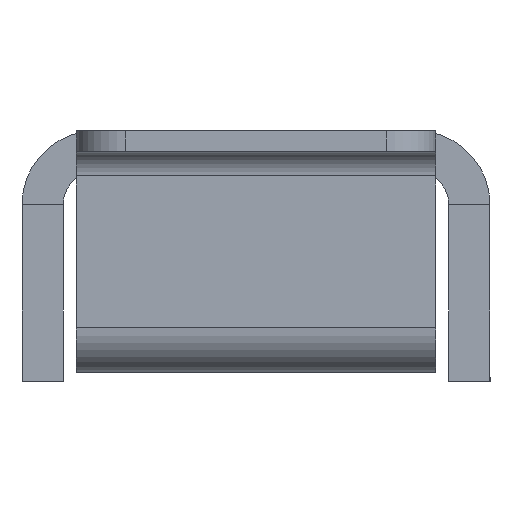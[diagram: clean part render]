
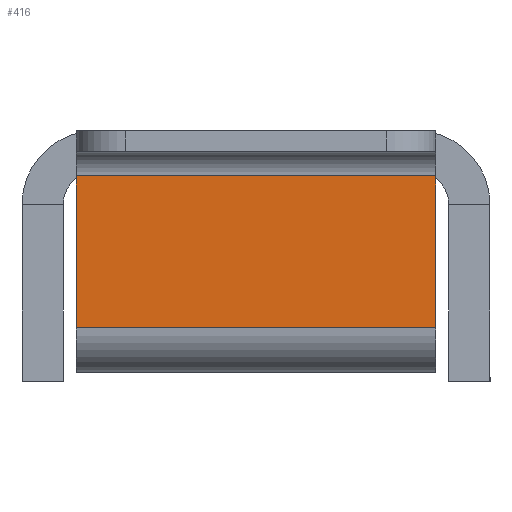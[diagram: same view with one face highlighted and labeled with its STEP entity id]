
A CAD part, left-side view. The second image highlights one B-rep face of the part: STEP entity #416.
In plain terms, the highlighted planar face has unit normal (-1, 0, 0).
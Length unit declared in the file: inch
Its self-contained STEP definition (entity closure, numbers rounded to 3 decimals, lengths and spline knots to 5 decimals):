
#9 = EDGE_CURVE ( 'NONE', #146, #602, #1647, .T. ) ;
#12 = CARTESIAN_POINT ( 'NONE',  ( -1.03438, 0.4375, 0.43 ) ) ;
#69 = VERTEX_POINT ( 'NONE', #852 ) ;
#115 = LINE ( 'NONE', #405, #2080 ) ;
#146 = VERTEX_POINT ( 'NONE', #12 ) ;
#228 = CARTESIAN_POINT ( 'NONE',  ( -1.03438, 0.4375, 0.06 ) ) ;
#253 = CARTESIAN_POINT ( 'NONE',  ( -1.03438, 0.4375, 0.49 ) ) ;
#302 = CARTESIAN_POINT ( 'NONE',  ( -1.03438, 0.4375, 0.43 ) ) ;
#405 = CARTESIAN_POINT ( 'NONE',  ( -1.03438, 0.4375, 0.06 ) ) ;
#416 = ADVANCED_FACE ( 'NONE', ( #555 ), #1248, .F. ) ;
#434 = EDGE_CURVE ( 'NONE', #69, #1970, #115, .T. ) ;
#508 = DIRECTION ( 'NONE',  ( 0., 0., 1. ) ) ;
#555 = FACE_OUTER_BOUND ( 'NONE', #1914, .T. ) ;
#585 = DIRECTION ( 'NONE',  ( 0., 0., -1. ) ) ;
#602 = VERTEX_POINT ( 'NONE', #827 ) ;
#620 = CARTESIAN_POINT ( 'NONE',  ( -1.03438, -0.4375, 0.49 ) ) ;
#649 = VECTOR ( 'NONE', #508, 39.37008 ) ;
#651 = VECTOR ( 'NONE', #1957, 39.37008 ) ;
#749 = DIRECTION ( 'NONE',  ( 0., 1., 0. ) ) ;
#821 = ORIENTED_EDGE ( 'NONE', *, *, #1660, .T. ) ;
#827 = CARTESIAN_POINT ( 'NONE',  ( -1.03438, -0.4375, 0.43 ) ) ;
#852 = CARTESIAN_POINT ( 'NONE',  ( -1.03438, -0.4375, 0.06 ) ) ;
#906 = EDGE_CURVE ( 'NONE', #146, #1970, #1510, .T. ) ;
#1150 = LINE ( 'NONE', #620, #649 ) ;
#1152 = ORIENTED_EDGE ( 'NONE', *, *, #434, .F. ) ;
#1248 = PLANE ( 'NONE',  #1985 ) ;
#1407 = DIRECTION ( 'NONE',  ( 1., 0., 0. ) ) ;
#1510 = LINE ( 'NONE', #1598, #1629 ) ;
#1598 = CARTESIAN_POINT ( 'NONE',  ( -1.03438, 0.4375, 0. ) ) ;
#1629 = VECTOR ( 'NONE', #1924, 39.37008 ) ;
#1647 = LINE ( 'NONE', #302, #651 ) ;
#1660 = EDGE_CURVE ( 'NONE', #69, #602, #1150, .T. ) ;
#1752 = ORIENTED_EDGE ( 'NONE', *, *, #906, .T. ) ;
#1864 = ORIENTED_EDGE ( 'NONE', *, *, #9, .F. ) ;
#1914 = EDGE_LOOP ( 'NONE', ( #1864, #1752, #1152, #821 ) ) ;
#1924 = DIRECTION ( 'NONE',  ( 0., 0., -1. ) ) ;
#1957 = DIRECTION ( 'NONE',  ( 0., -1., 0. ) ) ;
#1970 = VERTEX_POINT ( 'NONE', #228 ) ;
#1985 = AXIS2_PLACEMENT_3D ( 'NONE', #253, #1407, #585 ) ;
#2080 = VECTOR ( 'NONE', #749, 39.37008 ) ;
